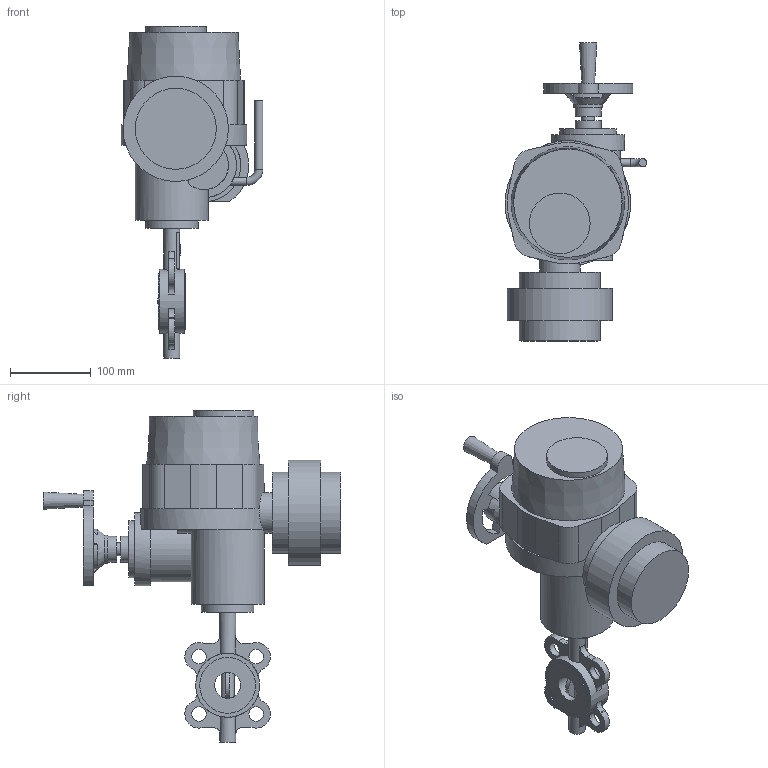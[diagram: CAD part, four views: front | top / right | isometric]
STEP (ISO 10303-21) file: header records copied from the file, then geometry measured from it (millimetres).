
FILE_DESCRIPTION(('STEP AP203'), '1');
FILE_NAME('青蜮铕 017W.YS_DN32_QT.A 005', '', ('UNSPECIFIED'), ('UNSPECIFIED'), 'ASCON STEP Converter 1.6', 'ASCON Math Kernel', '');
FILE_SCHEMA(('CONFIG_CONTROL_DESIGN'));
Length unit declared in the file: millimetre
Bounding box: 175 x 368 x 410 mm (x, y, z)
Volume: 4795456.5 mm3; surface area: 282739.7 mm2
Topology: 1 solids, 1 shells, 196 faces, 470 edges, 306 vertices
Faces by surface type: plane 111, cylinder 77, torus 5, cone 3
Full cylindrical faces by diameter (mm): 6.7 x8, 8 x4, 10 x2, 16 x2, 18 x4, 20 x2, 32 x3, 35 x1, 50 x1, 65 x1, 68.9 x2, 70 x1, 75 x1, 78.9 x1, 90 x2, 100 x2, 130 x1
Entity records: 8911 total; most frequent: CARTESIAN_POINT 2731, DIRECTION 999, ORIENTED_EDGE 856, EDGE_CURVE 428, AXIS2_PLACEMENT_3D 406, VERTEX_POINT 306, EDGE_LOOP 286, FACE_BOUND 213
